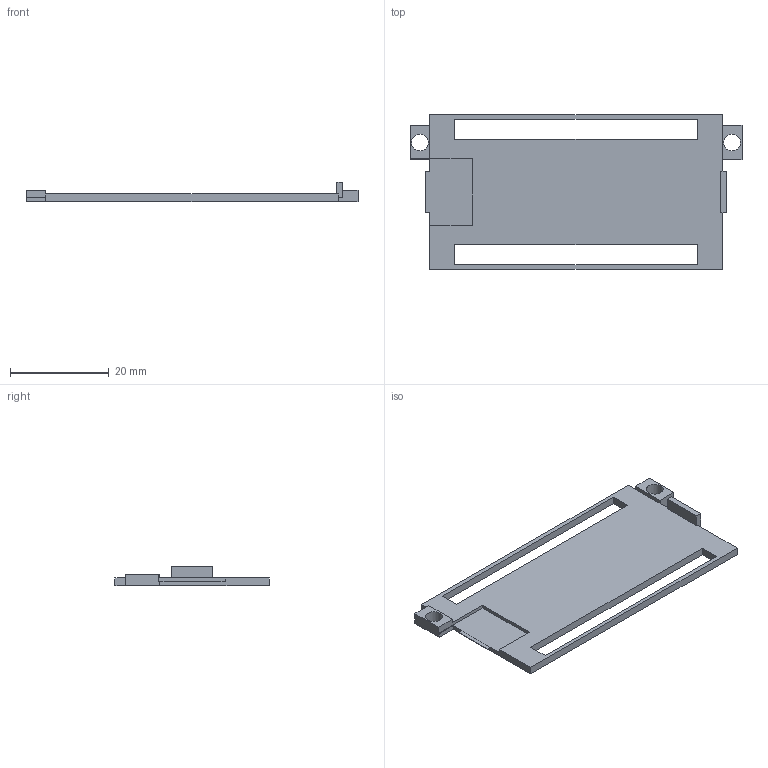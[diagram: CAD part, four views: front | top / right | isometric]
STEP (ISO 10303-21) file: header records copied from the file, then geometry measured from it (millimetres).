
FILE_DESCRIPTION(('FreeCAD Model'),'2;1');
FILE_NAME('Open CASCADE Shape Model','2026-11-20T08:25:38',('FreeCAD'),( 'FreeCAD'),'Open CASCADE STEP processor 7.8','FreeCAD','Unknown');
FILE_SCHEMA(('AUTOMOTIVE_DESIGN { 1 0 10303 214 1 1 1 1 }'));
Length unit declared in the file: millimetre
Products named in the file (1): Open CASCADE STEP translator 7.8 52
Bounding box: 67.2 x 31.2 x 4 mm (x, y, z)
Volume: 2351 mm3; surface area: 3796 mm2
Topology: 1 solids, 1 shells, 42 faces, 117 edges, 77 vertices
Faces by surface type: plane 40, cylinder 2
Full cylindrical faces by diameter (mm): 3.4 x2
Entity records: 1347 total; most frequent: CARTESIAN_POINT 237, ORIENTED_EDGE 234, DIRECTION 207, EDGE_CURVE 117, LINE 113, VECTOR 113, VERTEX_POINT 77, FACE_BOUND 50
